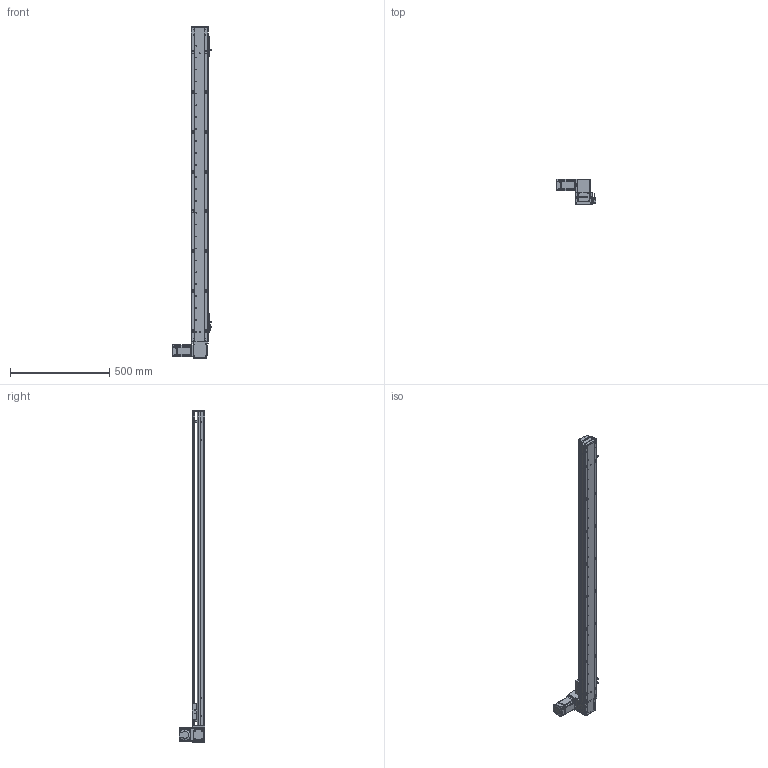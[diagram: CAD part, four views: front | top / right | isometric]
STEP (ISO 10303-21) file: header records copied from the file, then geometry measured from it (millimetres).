
FILE_DESCRIPTION (( 'STEP AP203' ), '1' );
FILE_NAME ('RY80-T-300-UL.SLDASM_1400.step', '2021-03-01T02:17:49', ( '盈信电脑' ), ( '东莞市道滘镇水果街19号' ), 'SwSTEP 2.0', 'SolidWorks 2012', '' );
FILE_SCHEMA (( 'CONFIG_CONTROL_DESIGN' ));
Length unit declared in the file: millimetre
Products named in the file (19): 覜茼ん672; RY80俋离覜茼え; 672嫖萇羲壽假蚾釱; RY80-T綴裔啣; RY80-T-300-UL倰第奻裔啣_1400; RY80-T肮祭謫臏賑輸; RY80-T-300-UL倰第菁釱_1400; RY80-T-300-UL.SLDASM_1400; RY80-T-上下折同步轮盖板; RY80-T肮祭謫奻殏俋欶; RY80-T-M4蹟翐2; 1; RY80-T翋肮祭謫裔啣; RY80-T肮祭湍揤輸2; 滅袉蝶18-10; RY80-T萇儂假蚾啣; RY80-T粣創揤踡輸; RY80-T肮祭湍揤輸1; RY80-T-翋肮祭謫釱
Assembly tree (24 placements, depth 2):
  RY80-T-300-UL.SLDASM_1400
    RY80-T-300-UL倰第菁釱_1400
    RY80-T肮祭謫臏賑輸
    RY80-T-300-UL倰第奻裔啣_1400
    RY80-T綴裔啣
    672嫖萇羲壽假蚾釱  x2
    覜茼ん672  x3
    RY80俋离覜茼え
    RY80-T-翋肮祭謫釱
    RY80-T肮祭湍揤輸1
    RY80-T肮祭湍揤輸2
    RY80-T萇儂假蚾啣
    RY80-T粣創揤踡輸  x2
    滅袉蝶18-10  x2
    RY80-T翋肮祭謫裔啣
    1
    RY80-T肮祭謫奻殏俋欶
    RY80-T-M4蹟翐2  x2
    RY80-T-上下折同步轮盖板
Bounding box: 198.7 x 130.5 x 1670 mm (x, y, z)
Volume: 2712983.5 mm3; surface area: 1149125 mm2
Topology: 24 solids, 24 shells, 2559 faces, 7054 edges, 4581 vertices
Faces by surface type: plane 1354, cylinder 999, cone 150, bspline 56
Entity records: 80413 total; most frequent: CARTESIAN_POINT 19684, ORIENTED_EDGE 12492, DIRECTION 11726, EDGE_CURVE 6246, VERTEX_POINT 4102, AXIS2_PLACEMENT_3D 3960, VECTOR 3806, LINE 3806
